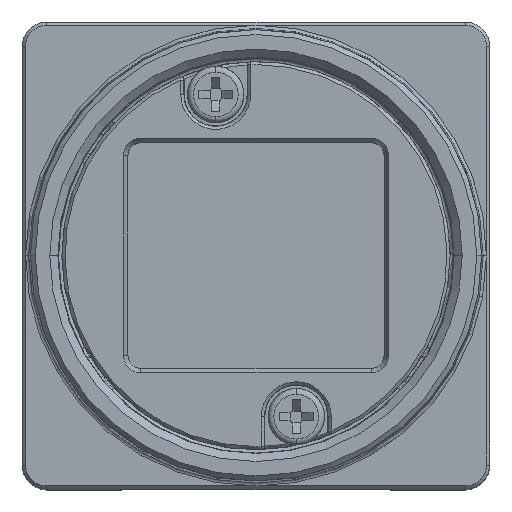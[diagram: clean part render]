
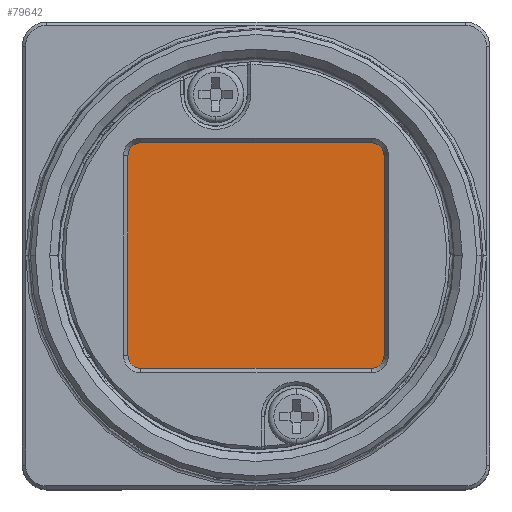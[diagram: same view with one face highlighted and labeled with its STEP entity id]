
A CAD part, top view. The second image highlights one B-rep face of the part: STEP entity #79642.
In plain terms, the highlighted planar face has unit normal (0, 0, 1).
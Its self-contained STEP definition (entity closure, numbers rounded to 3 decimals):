
#31696=DIRECTION('',(0.,1.,0.));
#31697=VECTOR('',#31696,2.381);
#31698=CARTESIAN_POINT('',(-8.75,5.119,-0.85));
#31699=LINE('',#31698,#31697);
#31703=DIRECTION('',(1.,0.,0.));
#31704=VECTOR('',#31703,17.5);
#31705=CARTESIAN_POINT('',(-8.75,7.5,-0.85));
#31706=LINE('',#31705,#31704);
#31710=DIRECTION('',(0.,-1.,0.));
#31711=VECTOR('',#31710,2.381);
#31712=CARTESIAN_POINT('',(8.75,7.5,-0.85));
#31713=LINE('',#31712,#31711);
#31717=DIRECTION('',(0.,-1.,0.));
#31718=VECTOR('',#31717,2.381);
#31719=CARTESIAN_POINT('',(8.75,-5.119,-0.85));
#31720=LINE('',#31719,#31718);
#31724=DIRECTION('',(-1.,0.,0.));
#31725=VECTOR('',#31724,17.5);
#31726=CARTESIAN_POINT('',(8.75,-7.5,-0.85));
#31727=LINE('',#31726,#31725);
#31731=DIRECTION('',(0.,1.,0.));
#31732=VECTOR('',#31731,2.381);
#31733=CARTESIAN_POINT('',(-8.75,-7.5,-0.85));
#31734=LINE('',#31733,#31732);
#31738=DIRECTION('',(0.,-1.,0.));
#31739=VECTOR('',#31738,10.239);
#31740=CARTESIAN_POINT('',(-7.987,5.119,-0.85));
#31741=LINE('',#31740,#31739);
#31775=DIRECTION('',(-1.,0.,0.));
#31776=VECTOR('',#31775,0.763);
#31777=CARTESIAN_POINT('',(-7.987,-5.119,-0.85));
#31778=LINE('',#31777,#31776);
#32009=DIRECTION('',(1.,0.,0.));
#32010=VECTOR('',#32009,0.763);
#32011=CARTESIAN_POINT('',(7.987,-5.119,-0.85));
#32012=LINE('',#32011,#32010);
#32033=DIRECTION('',(0.,1.,0.));
#32034=VECTOR('',#32033,10.239);
#32035=CARTESIAN_POINT('',(7.987,-5.119,-0.85));
#32036=LINE('',#32035,#32034);
#32070=DIRECTION('',(1.,0.,0.));
#32071=VECTOR('',#32070,0.763);
#32072=CARTESIAN_POINT('',(7.987,5.119,-0.85));
#32073=LINE('',#32072,#32071);
#41803=DIRECTION('',(-1.,0.,0.));
#41804=VECTOR('',#41803,0.763);
#41805=CARTESIAN_POINT('',(-7.987,5.119,-0.85));
#41806=LINE('',#41805,#41804);
#49257=CARTESIAN_POINT('',(-8.75,7.5,-0.85));
#49258=VERTEX_POINT('',#49257);
#49259=CARTESIAN_POINT('',(-8.75,-7.5,-0.85));
#49260=VERTEX_POINT('',#49259);
#49261=CARTESIAN_POINT('',(8.75,7.5,-0.85));
#49262=VERTEX_POINT('',#49261);
#49263=CARTESIAN_POINT('',(8.75,-7.5,-0.85));
#49264=VERTEX_POINT('',#49263);
#49265=CARTESIAN_POINT('',(8.75,-5.119,-0.85));
#49266=CARTESIAN_POINT('',(8.75,5.119,-0.85));
#49267=VERTEX_POINT('',#49265);
#49268=VERTEX_POINT('',#49266);
#49269=CARTESIAN_POINT('',(-8.75,-5.119,-0.85));
#49270=CARTESIAN_POINT('',(-8.75,5.119,-0.85));
#49271=VERTEX_POINT('',#49269);
#49272=VERTEX_POINT('',#49270);
#49273=CARTESIAN_POINT('',(-7.987,5.119,-0.85));
#49274=CARTESIAN_POINT('',(-7.987,-5.119,-0.85));
#49275=VERTEX_POINT('',#49273);
#49276=VERTEX_POINT('',#49274);
#49277=CARTESIAN_POINT('',(7.987,-5.119,-0.85));
#49278=VERTEX_POINT('',#49277);
#49279=CARTESIAN_POINT('',(7.987,5.119,-0.85));
#49280=VERTEX_POINT('',#49279);
#79613=CARTESIAN_POINT('',(0.,0.,-0.85));
#79614=DIRECTION('',(0.,0.,1.));
#79615=DIRECTION('',(1.,0.,0.));
#79616=AXIS2_PLACEMENT_3D('',#79613,#79614,#79615);
#79617=PLANE('',#79616);
#79619=ORIENTED_EDGE('',*,*,#79618,.F.);
#79621=ORIENTED_EDGE('',*,*,#79620,.T.);
#79622=ORIENTED_EDGE('',*,*,#79608,.T.);
#79624=ORIENTED_EDGE('',*,*,#79623,.T.);
#79626=ORIENTED_EDGE('',*,*,#79625,.T.);
#79628=ORIENTED_EDGE('',*,*,#79627,.F.);
#79630=ORIENTED_EDGE('',*,*,#79629,.F.);
#79632=ORIENTED_EDGE('',*,*,#79631,.T.);
#79634=ORIENTED_EDGE('',*,*,#79633,.T.);
#79636=ORIENTED_EDGE('',*,*,#79635,.T.);
#79637=ORIENTED_EDGE('',*,*,#79600,.T.);
#79639=ORIENTED_EDGE('',*,*,#79638,.F.);
#79640=EDGE_LOOP('',(#79619,#79621,#79622,#79624,#79626,#79628,#79630,#79632,
#79634,#79636,#79637,#79639));
#79641=FACE_OUTER_BOUND('',#79640,.F.);
#79642=ADVANCED_FACE('',(#79641),#79617,.T.);
#79600=EDGE_CURVE('',#49260,#49271,#31734,.T.);
#79608=EDGE_CURVE('',#49272,#49258,#31699,.T.);
#79618=EDGE_CURVE('',#49275,#49276,#31741,.T.);
#79620=EDGE_CURVE('',#49275,#49272,#41806,.T.);
#79623=EDGE_CURVE('',#49258,#49262,#31706,.T.);
#79625=EDGE_CURVE('',#49262,#49268,#31713,.T.);
#79627=EDGE_CURVE('',#49280,#49268,#32073,.T.);
#79629=EDGE_CURVE('',#49278,#49280,#32036,.T.);
#79631=EDGE_CURVE('',#49278,#49267,#32012,.T.);
#79633=EDGE_CURVE('',#49267,#49264,#31720,.T.);
#79635=EDGE_CURVE('',#49264,#49260,#31727,.T.);
#79638=EDGE_CURVE('',#49276,#49271,#31778,.T.);
